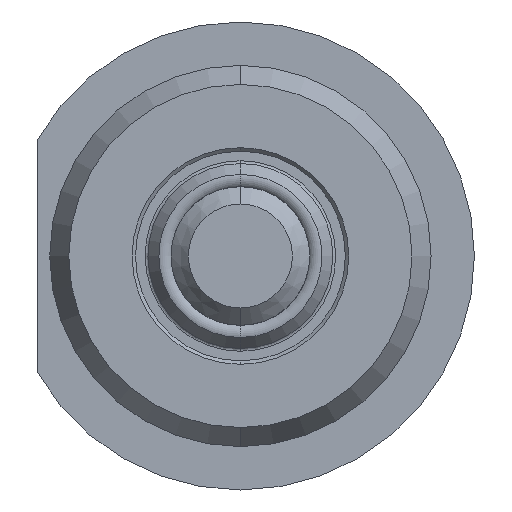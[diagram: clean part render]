
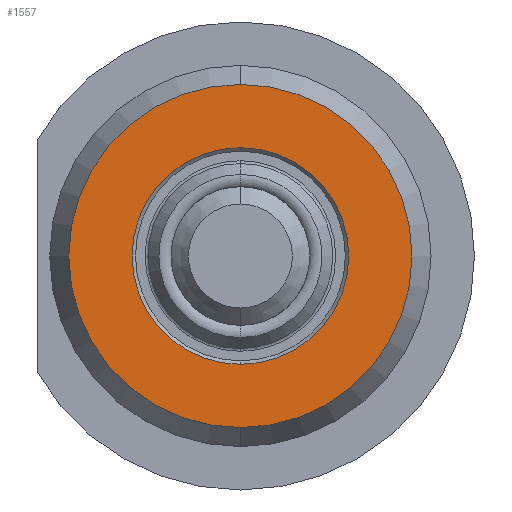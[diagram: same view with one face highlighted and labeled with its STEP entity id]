
A CAD part, left-side view. The second image highlights one B-rep face of the part: STEP entity #1557.
In plain terms, the highlighted planar face has unit normal (-1, 0, 0).
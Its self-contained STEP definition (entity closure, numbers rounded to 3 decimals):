
#49 = VERTEX_POINT ( 'NONE', #3436 ) ;
#64 = VERTEX_POINT ( 'NONE', #3451 ) ;
#85 = VERTEX_POINT ( 'NONE', #3472 ) ;
#116 = VERTEX_POINT ( 'NONE', #3503 ) ;
#188 = EDGE_LOOP ( 'NONE', ( #2354, #2355 ) ) ;
#189 = EDGE_LOOP ( 'NONE', ( #2352, #2353 ) ) ;
#585 = CARTESIAN_POINT ( 'NONE',  ( 0., 0., 0. ) ) ;
#588 = PLANE ( 'NONE',  #1343 ) ;
#590 = DIRECTION ( 'NONE',  ( -1., 0., 0. ) ) ;
#591 = DIRECTION ( 'NONE',  ( 0., 0., 1. ) ) ;
#946 = FACE_OUTER_BOUND ( 'NONE', #188, .T. ) ;
#950 = FACE_BOUND ( 'NONE', #189, .T. ) ;
#1343 = AXIS2_PLACEMENT_3D ( 'NONE', #585, #590, #591 ) ;
#1557 = ADVANCED_FACE ( 'NONE', ( #950, #946 ), #588, .T. ) ;
#2196 = CIRCLE ( 'NONE', #3325, 9.9 ) ;
#2352 = ORIENTED_EDGE ( 'NONE', *, *, #2779, .T. ) ;
#2353 = ORIENTED_EDGE ( 'NONE', *, *, #2796, .T. ) ;
#2354 = ORIENTED_EDGE ( 'NONE', *, *, #2742, .F. ) ;
#2355 = ORIENTED_EDGE ( 'NONE', *, *, #2797, .F. ) ;
#2548 = CARTESIAN_POINT ( 'NONE',  ( 0., 0., 0. ) ) ;
#2549 = DIRECTION ( 'NONE',  ( 1., 0., 0. ) ) ;
#2550 = DIRECTION ( 'NONE',  ( 0., 0., 1. ) ) ;
#2551 = CARTESIAN_POINT ( 'NONE',  ( 0., 0., 0. ) ) ;
#2552 = DIRECTION ( 'NONE',  ( 1., 0., 0. ) ) ;
#2553 = DIRECTION ( 'NONE',  ( 0., 0., -1. ) ) ;
#2742 = EDGE_CURVE ( 'NONE', #64, #49, #2196, .T. ) ;
#2779 = EDGE_CURVE ( 'NONE', #85, #116, #3104, .T. ) ;
#2796 = EDGE_CURVE ( 'NONE', #116, #85, #3127, .T. ) ;
#2797 = EDGE_CURVE ( 'NONE', #49, #64, #3128, .T. ) ;
#3104 = CIRCLE ( 'NONE', #3343, 6.25 ) ;
#3127 = CIRCLE ( 'NONE', #3357, 6.25 ) ;
#3128 = CIRCLE ( 'NONE', #3358, 9.9 ) ;
#3218 = CARTESIAN_POINT ( 'NONE',  ( 0., 0., 0. ) ) ;
#3219 = DIRECTION ( 'NONE',  ( 1., 0., 0. ) ) ;
#3220 = DIRECTION ( 'NONE',  ( 0., 0., -1. ) ) ;
#3310 = CARTESIAN_POINT ( 'NONE',  ( 0., 0., 0. ) ) ;
#3311 = DIRECTION ( 'NONE',  ( 1., 0., 0. ) ) ;
#3312 = DIRECTION ( 'NONE',  ( 0., 0., 1. ) ) ;
#3325 = AXIS2_PLACEMENT_3D ( 'NONE', #3218, #3219, #3220 ) ;
#3343 = AXIS2_PLACEMENT_3D ( 'NONE', #3310, #3311, #3312 ) ;
#3357 = AXIS2_PLACEMENT_3D ( 'NONE', #2548, #2549, #2550 ) ;
#3358 = AXIS2_PLACEMENT_3D ( 'NONE', #2551, #2552, #2553 ) ;
#3436 = CARTESIAN_POINT ( 'NONE',  ( 0., 0., 9.9 ) ) ;
#3451 = CARTESIAN_POINT ( 'NONE',  ( 0., 0., -9.9 ) ) ;
#3472 = CARTESIAN_POINT ( 'NONE',  ( 0., 0., 6.25 ) ) ;
#3503 = CARTESIAN_POINT ( 'NONE',  ( 0., 0., -6.25 ) ) ;
